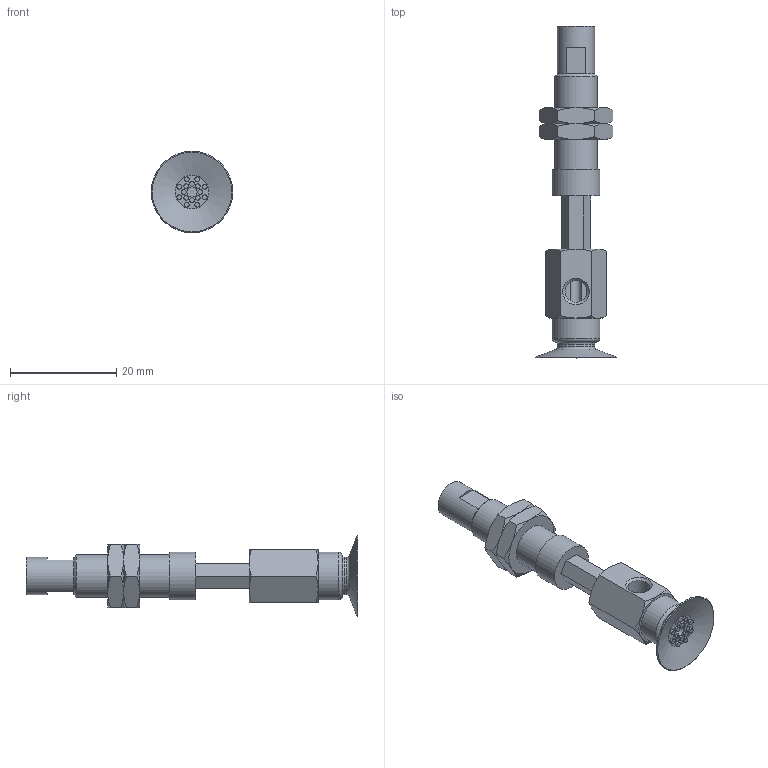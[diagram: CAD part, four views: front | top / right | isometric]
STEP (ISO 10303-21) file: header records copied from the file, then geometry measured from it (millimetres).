
FILE_DESCRIPTION(('STEP AP203'),'1');
FILE_NAME('.stp','2025-03-13T03:03:15',(' '),(' '),'Spatial InterOp 3D',' ',' ');
FILE_SCHEMA(('CONFIG_CONTROL_DESIGN'));
Length unit declared in the file: millimetre
Products named in the file (6): BNABPAYH-15A-10-※; NAPATH-10A-10--M; NAPATH-10A-10--F; Nut-10A-S; CONNECTOR-10A-10-PA; BPAG-15A-※
Assembly tree (6 placements, depth 2):
  BNABPAYH-15A-10-※
    NAPATH-10A-10--M
    NAPATH-10A-10--F
    Nut-10A-S  x2
    CONNECTOR-10A-10-PA
    BPAG-15A-※
Bounding box: 15.3 x 62.5 x 15.3 mm (x, y, z)
Volume: 3524.5 mm3; surface area: 4449.3 mm2
Topology: 6 solids, 6 shells, 170 faces, 347 edges, 214 vertices
Faces by surface type: plane 79, cone 50, cylinder 32, torus 9
Full cylindrical faces by diameter (mm): 0.9 x16, 2 x2, 4 x2, 4.134 x2, 5 x1, 6 x2, 7 x2, 7.188 x2, 8 x1, 9 x2
Entity records: 4064 total; most frequent: CARTESIAN_POINT 920, DIRECTION 604, ORIENTED_EDGE 480, AXIS2_PLACEMENT_3D 264, EDGE_CURVE 240, EDGE_LOOP 232, FACE_OUTER_BOUND 187, VERTEX_POINT 178
